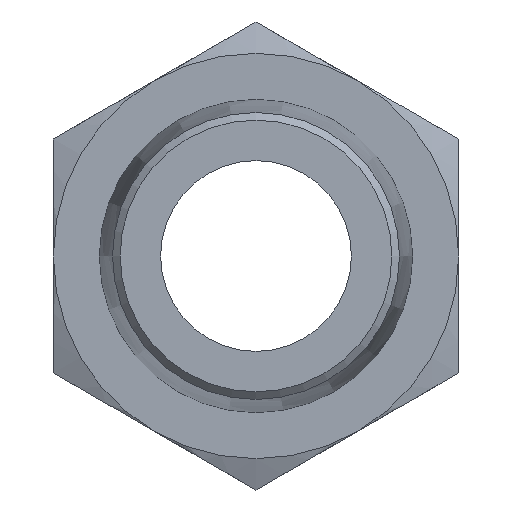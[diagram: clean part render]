
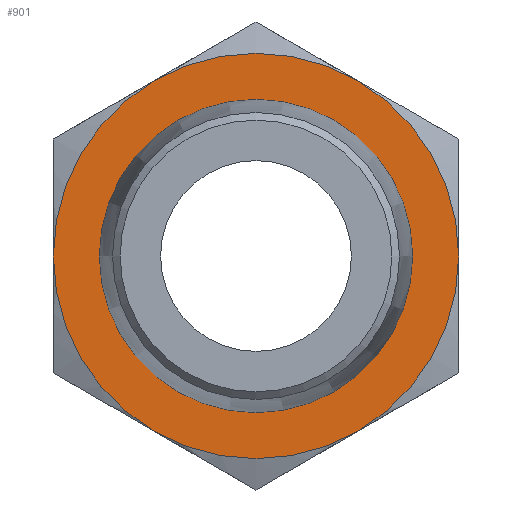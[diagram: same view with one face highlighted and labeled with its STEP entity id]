
A CAD part, front view. The second image highlights one B-rep face of the part: STEP entity #901.
In plain terms, the highlighted planar face has unit normal (0, -1, 0).
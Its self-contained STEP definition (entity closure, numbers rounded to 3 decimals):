
#38=FACE_BOUND('',#193,.T.);
#130=FACE_OUTER_BOUND('',#192,.T.);
#192=EDGE_LOOP('',(#814,#815,#816,#817,#818,#819));
#193=EDGE_LOOP('',(#820));
#227=CIRCLE('',#995,6.569);
#228=CIRCLE('',#997,8.5);
#229=CIRCLE('',#999,8.5);
#230=CIRCLE('',#1001,8.5);
#231=CIRCLE('',#1003,8.5);
#232=CIRCLE('',#1005,8.5);
#233=CIRCLE('',#1007,8.5);
#393=VERTEX_POINT('',#1394);
#398=VERTEX_POINT('',#1415);
#422=VERTEX_POINT('',#1500);
#423=VERTEX_POINT('',#1504);
#425=VERTEX_POINT('',#1511);
#427=VERTEX_POINT('',#1521);
#429=VERTEX_POINT('',#1534);
#529=EDGE_CURVE('',#422,#422,#227,.T.);
#532=EDGE_CURVE('',#423,#398,#228,.T.);
#535=EDGE_CURVE('',#425,#423,#229,.T.);
#538=EDGE_CURVE('',#427,#425,#230,.T.);
#540=EDGE_CURVE('',#429,#427,#231,.T.);
#543=EDGE_CURVE('',#393,#429,#232,.T.);
#544=EDGE_CURVE('',#398,#393,#233,.T.);
#814=ORIENTED_EDGE('',*,*,#544,.T.);
#815=ORIENTED_EDGE('',*,*,#543,.T.);
#816=ORIENTED_EDGE('',*,*,#540,.T.);
#817=ORIENTED_EDGE('',*,*,#538,.T.);
#818=ORIENTED_EDGE('',*,*,#535,.T.);
#819=ORIENTED_EDGE('',*,*,#532,.T.);
#820=ORIENTED_EDGE('',*,*,#529,.T.);
#846=PLANE('',#1025);
#901=ADVANCED_FACE('',(#130,#38),#846,.F.);
#995=AXIS2_PLACEMENT_3D('',#1501,#1219,#1220);
#997=AXIS2_PLACEMENT_3D('',#1508,#1224,#1225);
#999=AXIS2_PLACEMENT_3D('',#1518,#1228,#1229);
#1001=AXIS2_PLACEMENT_3D('',#1528,#1232,#1233);
#1003=AXIS2_PLACEMENT_3D('',#1535,#1236,#1237);
#1005=AXIS2_PLACEMENT_3D('',#1543,#1240,#1241);
#1007=AXIS2_PLACEMENT_3D('',#1545,#1244,#1245);
#1025=AXIS2_PLACEMENT_3D('',#1600,#1286,#1287);
#1219=DIRECTION('center_axis',(0.,1.,0.));
#1220=DIRECTION('ref_axis',(1.,0.,0.));
#1224=DIRECTION('center_axis',(0.,-1.,0.));
#1225=DIRECTION('ref_axis',(1.,0.,0.));
#1228=DIRECTION('center_axis',(0.,-1.,0.));
#1229=DIRECTION('ref_axis',(1.,0.,0.));
#1232=DIRECTION('center_axis',(0.,-1.,0.));
#1233=DIRECTION('ref_axis',(1.,0.,0.));
#1236=DIRECTION('center_axis',(0.,-1.,0.));
#1237=DIRECTION('ref_axis',(1.,0.,0.));
#1240=DIRECTION('center_axis',(0.,-1.,0.));
#1241=DIRECTION('ref_axis',(1.,0.,0.));
#1244=DIRECTION('center_axis',(0.,-1.,0.));
#1245=DIRECTION('ref_axis',(1.,0.,0.));
#1286=DIRECTION('center_axis',(0.,1.,0.));
#1287=DIRECTION('ref_axis',(0.,0.,1.));
#1394=CARTESIAN_POINT('',(-4.25,0.,-7.361));
#1415=CARTESIAN_POINT('',(-8.5,0.,0.));
#1500=CARTESIAN_POINT('',(-6.569,0.,0.));
#1501=CARTESIAN_POINT('Origin',(0.,0.,0.));
#1504=CARTESIAN_POINT('',(-4.25,0.,7.361));
#1508=CARTESIAN_POINT('Origin',(0.,0.,0.));
#1511=CARTESIAN_POINT('',(4.25,0.,7.361));
#1518=CARTESIAN_POINT('Origin',(0.,0.,0.));
#1521=CARTESIAN_POINT('',(8.5,0.,0.));
#1528=CARTESIAN_POINT('Origin',(0.,0.,0.));
#1534=CARTESIAN_POINT('',(4.25,0.,-7.361));
#1535=CARTESIAN_POINT('Origin',(0.,0.,0.));
#1543=CARTESIAN_POINT('Origin',(0.,0.,0.));
#1545=CARTESIAN_POINT('Origin',(0.,0.,0.));
#1600=CARTESIAN_POINT('Origin',(0.,0.,0.));
